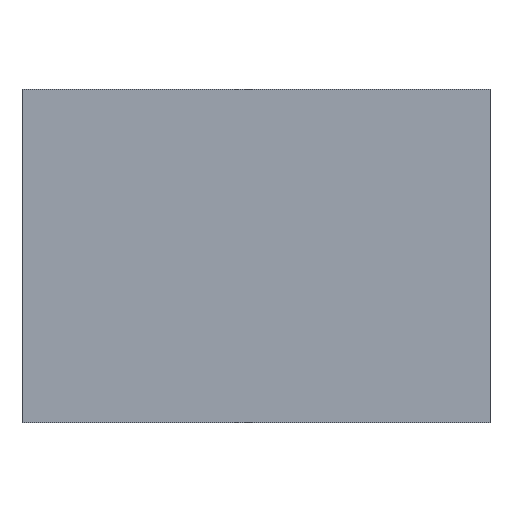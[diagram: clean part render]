
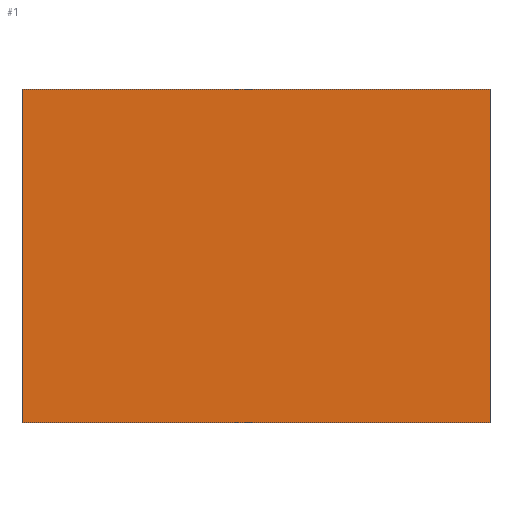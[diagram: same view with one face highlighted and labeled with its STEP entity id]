
A CAD part, top view. The second image highlights one B-rep face of the part: STEP entity #1.
In plain terms, the highlighted planar face has unit normal (0, 0, 1).
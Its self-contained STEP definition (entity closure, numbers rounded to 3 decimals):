
#1 = ADVANCED_FACE ( 'NONE', ( #189 ), #52, .F. ) ;
#12 = EDGE_CURVE ( 'NONE', #61, #47, #190, .T. ) ;
#19 = EDGE_CURVE ( 'NONE', #47, #46, #152, .T. ) ;
#22 = EDGE_CURVE ( 'NONE', #46, #55, #184, .T. ) ;
#25 = EDGE_CURVE ( 'NONE', #55, #61, #160, .T. ) ;
#30 = AXIS2_PLACEMENT_3D ( 'NONE', #56, #48, #49 ) ;
#46 = VERTEX_POINT ( 'NONE', #91 ) ;
#47 = VERTEX_POINT ( 'NONE', #121 ) ;
#48 = DIRECTION ( 'NONE',  ( 0., 0., -1. ) ) ;
#49 = DIRECTION ( 'NONE',  ( 0., 1., 0. ) ) ;
#52 = PLANE ( 'NONE',  #30 ) ;
#55 = VERTEX_POINT ( 'NONE', #123 ) ;
#56 = CARTESIAN_POINT ( 'NONE',  ( -301., 429., 6. ) ) ;
#57 = CARTESIAN_POINT ( 'NONE',  ( 301., 0., 6. ) ) ;
#58 = DIRECTION ( 'NONE',  ( 0., 1., 0. ) ) ;
#61 = VERTEX_POINT ( 'NONE', #127 ) ;
#69 = CARTESIAN_POINT ( 'NONE',  ( -301., 429., 6. ) ) ;
#70 = CARTESIAN_POINT ( 'NONE',  ( -301., 0., 6. ) ) ;
#90 = DIRECTION ( 'NONE',  ( -1., 0., 0. ) ) ;
#91 = CARTESIAN_POINT ( 'NONE',  ( 301., 429., 6. ) ) ;
#96 = CARTESIAN_POINT ( 'NONE',  ( -301., 0., 6. ) ) ;
#97 = DIRECTION ( 'NONE',  ( 0., -1., 0. ) ) ;
#102 = DIRECTION ( 'NONE',  ( 1., 0., 0. ) ) ;
#121 = CARTESIAN_POINT ( 'NONE',  ( 301., 0., 6. ) ) ;
#123 = CARTESIAN_POINT ( 'NONE',  ( -301., 429., 6. ) ) ;
#127 = CARTESIAN_POINT ( 'NONE',  ( -301., 0., 6. ) ) ;
#142 = ORIENTED_EDGE ( 'NONE', *, *, #22, .T. ) ;
#151 = VECTOR ( 'NONE', #58, 1000. ) ;
#152 = LINE ( 'NONE', #57, #151 ) ;
#155 = VECTOR ( 'NONE', #90, 1000. ) ;
#160 = LINE ( 'NONE', #96, #199 ) ;
#170 = ORIENTED_EDGE ( 'NONE', *, *, #25, .T. ) ;
#171 = ORIENTED_EDGE ( 'NONE', *, *, #19, .T. ) ;
#173 = ORIENTED_EDGE ( 'NONE', *, *, #12, .T. ) ;
#182 = EDGE_LOOP ( 'NONE', ( #170, #173, #171, #142 ) ) ;
#184 = LINE ( 'NONE', #69, #155 ) ;
#189 = FACE_OUTER_BOUND ( 'NONE', #182, .T. ) ;
#190 = LINE ( 'NONE', #70, #198 ) ;
#198 = VECTOR ( 'NONE', #102, 1000. ) ;
#199 = VECTOR ( 'NONE', #97, 1000. ) ;
